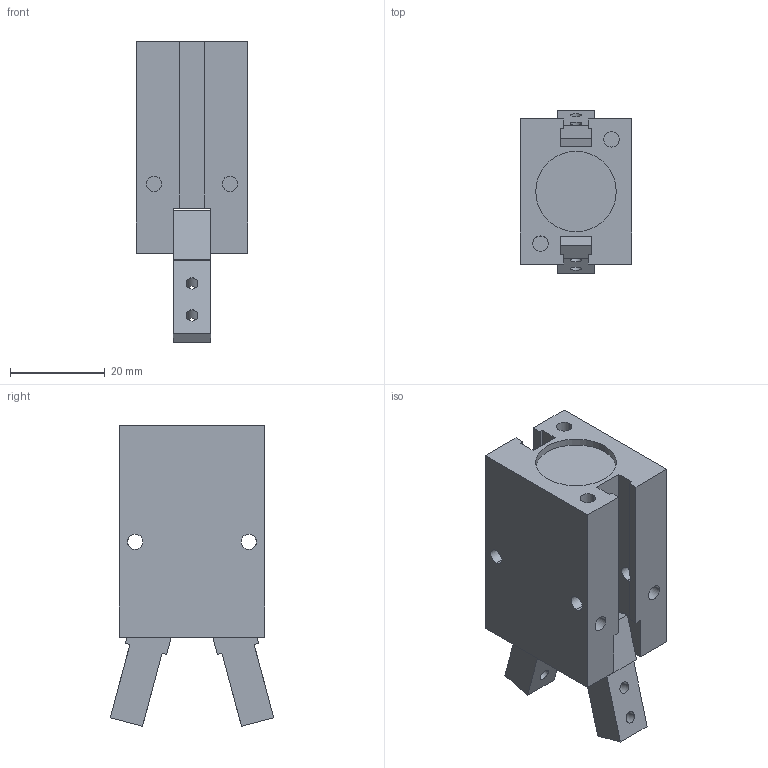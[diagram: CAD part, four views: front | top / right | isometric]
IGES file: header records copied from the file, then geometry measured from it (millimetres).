
Global section: file name: No Iges File Name specified; native system: AutoDesk Inventor R11.0; preprocessor: AutoDesk Inventor Iges Exporter R11.0; author: No Author specified; organization: No Organization specified; date: 20070226.135748; units: millimetre
Bounding box: 23.6 x 34.46 x 63.44 mm (x, y, z)
Volume: 28673.4 mm3; surface area: 10827.4 mm2
Topology: 3 solids, 3 shells, 99 faces, 282 edges, 188 vertices
Faces by surface type: plane 53, bspline 34, revolution 8, cylinder 4
